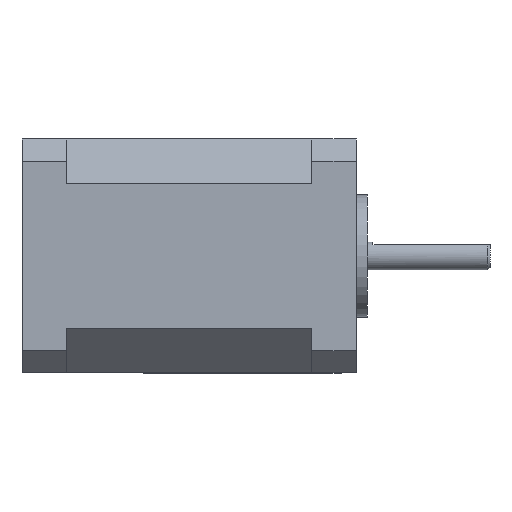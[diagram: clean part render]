
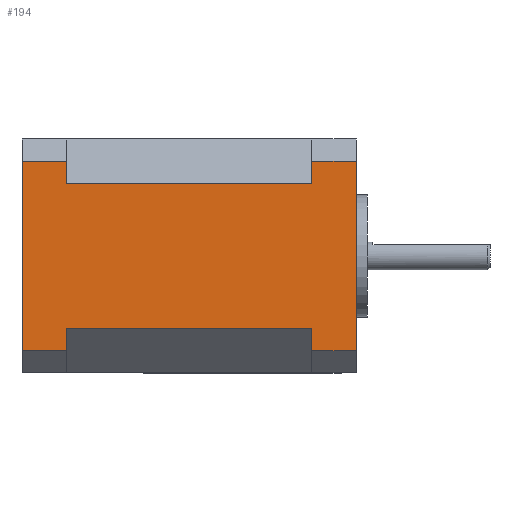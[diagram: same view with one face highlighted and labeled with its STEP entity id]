
A CAD part, left-side view. The second image highlights one B-rep face of the part: STEP entity #194.
In plain terms, the highlighted planar face has unit normal (-1, 0, 0).
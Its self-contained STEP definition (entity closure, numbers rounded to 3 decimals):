
#21 = EDGE_CURVE ( 'NONE', #583, #1037, #276, .T. ) ;
#38 = CARTESIAN_POINT ( 'NONE',  ( -21., -30., -17. ) ) ;
#42 = VECTOR ( 'NONE', #398, 1000. ) ;
#58 = VERTEX_POINT ( 'NONE', #1248 ) ;
#89 = VERTEX_POINT ( 'NONE', #1146 ) ;
#107 = LINE ( 'NONE', #202, #1193 ) ;
#137 = ORIENTED_EDGE ( 'NONE', *, *, #156, .F. ) ;
#150 = LINE ( 'NONE', #1060, #1109 ) ;
#151 = CARTESIAN_POINT ( 'NONE',  ( -21., -16.343, 17. ) ) ;
#156 = EDGE_CURVE ( 'NONE', #704, #1257, #1126, .T. ) ;
#168 = LINE ( 'NONE', #735, #1351 ) ;
#194 = ADVANCED_FACE ( 'NONE', ( #1360 ), #1152, .F. ) ;
#199 = CARTESIAN_POINT ( 'NONE',  ( -21., 30., -21. ) ) ;
#202 = CARTESIAN_POINT ( 'NONE',  ( -21., 30., -21. ) ) ;
#204 = ORIENTED_EDGE ( 'NONE', *, *, #268, .F. ) ;
#235 = EDGE_CURVE ( 'NONE', #1243, #1257, #168, .T. ) ;
#268 = EDGE_CURVE ( 'NONE', #282, #1037, #957, .T. ) ;
#276 = LINE ( 'NONE', #1311, #821 ) ;
#282 = VERTEX_POINT ( 'NONE', #1076 ) ;
#369 = VERTEX_POINT ( 'NONE', #1278 ) ;
#398 = DIRECTION ( 'NONE',  ( 0., -1., 0. ) ) ;
#412 = LINE ( 'NONE', #437, #901 ) ;
#421 = LINE ( 'NONE', #1032, #1166 ) ;
#426 = DIRECTION ( 'NONE',  ( 0., 1., 0. ) ) ;
#437 = CARTESIAN_POINT ( 'NONE',  ( -21., -22., -21. ) ) ;
#443 = VERTEX_POINT ( 'NONE', #547 ) ;
#447 = CARTESIAN_POINT ( 'NONE',  ( -21., -41.314, -13. ) ) ;
#455 = VECTOR ( 'NONE', #1055, 1000. ) ;
#514 = ORIENTED_EDGE ( 'NONE', *, *, #21, .T. ) ;
#527 = EDGE_CURVE ( 'NONE', #607, #58, #150, .T. ) ;
#532 = VERTEX_POINT ( 'NONE', #1189 ) ;
#541 = CARTESIAN_POINT ( 'NONE',  ( -21., -37.991, -17. ) ) ;
#547 = CARTESIAN_POINT ( 'NONE',  ( -21., -22., 13. ) ) ;
#568 = EDGE_CURVE ( 'NONE', #282, #443, #955, .T. ) ;
#571 = DIRECTION ( 'NONE',  ( 0., 1., 0. ) ) ;
#583 = VERTEX_POINT ( 'NONE', #38 ) ;
#586 = CARTESIAN_POINT ( 'NONE',  ( -21., -16.343, -17. ) ) ;
#605 = VECTOR ( 'NONE', #888, 1000. ) ;
#607 = VERTEX_POINT ( 'NONE', #1122 ) ;
#615 = DIRECTION ( 'NONE',  ( 0., 0., -1. ) ) ;
#622 = EDGE_CURVE ( 'NONE', #532, #607, #421, .T. ) ;
#632 = EDGE_CURVE ( 'NONE', #704, #89, #412, .T. ) ;
#660 = EDGE_LOOP ( 'NONE', ( #805, #952, #1013, #1476, #877, #838, #137, #1024, #1319, #514, #204, #1495 ) ) ;
#671 = VECTOR ( 'NONE', #571, 1000. ) ;
#693 = LINE ( 'NONE', #586, #455 ) ;
#704 = VERTEX_POINT ( 'NONE', #915 ) ;
#713 = DIRECTION ( 'NONE',  ( 0., 1., 0. ) ) ;
#735 = CARTESIAN_POINT ( 'NONE',  ( -21., 22., -21. ) ) ;
#772 = VECTOR ( 'NONE', #426, 1000. ) ;
#785 = DIRECTION ( 'NONE',  ( 0., 0., -1. ) ) ;
#805 = ORIENTED_EDGE ( 'NONE', *, *, #1493, .T. ) ;
#821 = VECTOR ( 'NONE', #1188, 1000. ) ;
#838 = ORIENTED_EDGE ( 'NONE', *, *, #235, .T. ) ;
#877 = ORIENTED_EDGE ( 'NONE', *, *, #1328, .F. ) ;
#888 = DIRECTION ( 'NONE',  ( 0., 1., 0. ) ) ;
#901 = VECTOR ( 'NONE', #785, 1000. ) ;
#915 = CARTESIAN_POINT ( 'NONE',  ( -21., -22., -13. ) ) ;
#952 = ORIENTED_EDGE ( 'NONE', *, *, #622, .T. ) ;
#955 = LINE ( 'NONE', #1074, #1330 ) ;
#957 = LINE ( 'NONE', #151, #42 ) ;
#981 = EDGE_CURVE ( 'NONE', #369, #58, #107, .T. ) ;
#1013 = ORIENTED_EDGE ( 'NONE', *, *, #527, .T. ) ;
#1024 = ORIENTED_EDGE ( 'NONE', *, *, #632, .T. ) ;
#1032 = CARTESIAN_POINT ( 'NONE',  ( -21., 22., 13. ) ) ;
#1037 = VERTEX_POINT ( 'NONE', #1281 ) ;
#1055 = DIRECTION ( 'NONE',  ( 0., -1., 0. ) ) ;
#1060 = CARTESIAN_POINT ( 'NONE',  ( -21., -37.991, 17. ) ) ;
#1074 = CARTESIAN_POINT ( 'NONE',  ( -21., -22., 13. ) ) ;
#1076 = CARTESIAN_POINT ( 'NONE',  ( -21., -22., 17. ) ) ;
#1109 = VECTOR ( 'NONE', #713, 1000. ) ;
#1122 = CARTESIAN_POINT ( 'NONE',  ( -21., 22., 17. ) ) ;
#1126 = LINE ( 'NONE', #447, #671 ) ;
#1131 = DIRECTION ( 'NONE',  ( 1., 0., 0. ) ) ;
#1146 = CARTESIAN_POINT ( 'NONE',  ( -21., -22., -17. ) ) ;
#1152 = PLANE ( 'NONE',  #1305 ) ;
#1166 = VECTOR ( 'NONE', #1359, 1000. ) ;
#1188 = DIRECTION ( 'NONE',  ( 0., 0., 1. ) ) ;
#1189 = CARTESIAN_POINT ( 'NONE',  ( -21., 22., 13. ) ) ;
#1192 = CARTESIAN_POINT ( 'NONE',  ( -21., 22., -13. ) ) ;
#1193 = VECTOR ( 'NONE', #1354, 1000. ) ;
#1243 = VERTEX_POINT ( 'NONE', #1295 ) ;
#1247 = LINE ( 'NONE', #1480, #605 ) ;
#1248 = CARTESIAN_POINT ( 'NONE',  ( -21., 30., 17. ) ) ;
#1257 = VERTEX_POINT ( 'NONE', #1192 ) ;
#1278 = CARTESIAN_POINT ( 'NONE',  ( -21., 30., -17. ) ) ;
#1281 = CARTESIAN_POINT ( 'NONE',  ( -21., -30., 17. ) ) ;
#1284 = EDGE_CURVE ( 'NONE', #89, #583, #693, .T. ) ;
#1295 = CARTESIAN_POINT ( 'NONE',  ( -21., 22., -17. ) ) ;
#1305 = AXIS2_PLACEMENT_3D ( 'NONE', #199, #1131, #1364 ) ;
#1311 = CARTESIAN_POINT ( 'NONE',  ( -21., -30., -21. ) ) ;
#1319 = ORIENTED_EDGE ( 'NONE', *, *, #1284, .T. ) ;
#1328 = EDGE_CURVE ( 'NONE', #1243, #369, #1455, .T. ) ;
#1330 = VECTOR ( 'NONE', #615, 1000. ) ;
#1351 = VECTOR ( 'NONE', #1439, 1000. ) ;
#1354 = DIRECTION ( 'NONE',  ( 0., 0., 1. ) ) ;
#1359 = DIRECTION ( 'NONE',  ( 0., 0., 1. ) ) ;
#1360 = FACE_OUTER_BOUND ( 'NONE', #660, .T. ) ;
#1364 = DIRECTION ( 'NONE',  ( 0., 0., -1. ) ) ;
#1439 = DIRECTION ( 'NONE',  ( 0., 0., 1. ) ) ;
#1455 = LINE ( 'NONE', #541, #772 ) ;
#1476 = ORIENTED_EDGE ( 'NONE', *, *, #981, .F. ) ;
#1480 = CARTESIAN_POINT ( 'NONE',  ( -21., -41.314, 13. ) ) ;
#1493 = EDGE_CURVE ( 'NONE', #443, #532, #1247, .T. ) ;
#1495 = ORIENTED_EDGE ( 'NONE', *, *, #568, .T. ) ;
